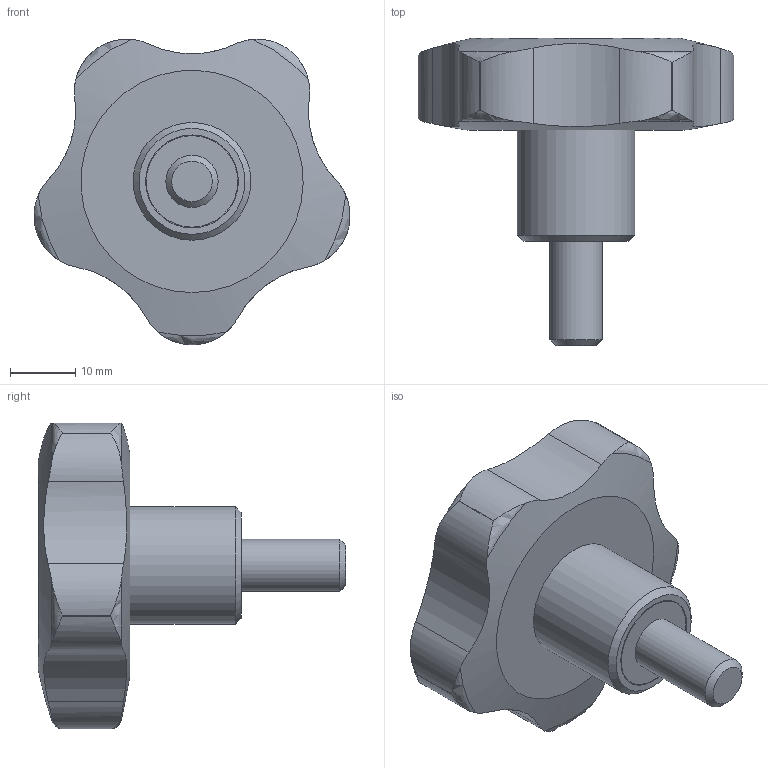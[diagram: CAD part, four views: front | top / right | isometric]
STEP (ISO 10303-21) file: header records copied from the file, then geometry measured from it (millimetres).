
FILE_DESCRIPTION( ( 'STEP AP203' ), '1' );
FILE_NAME( 'C:/Temp/Ganter_Step_05_03_2020/data/2_2/gn_5337_4/gn_5337_4_s/Star knob GN 5337.4-50-M8-16.stp', '2020-03-05T12:09:47', ( 'License CC BY-ND 4.0' ), ( 'CADENAS' ), ' ', 'PARTsolutions', ' ' );
FILE_SCHEMA( ( 'CONFIG_CONTROL_DESIGN' ) );
Length unit declared in the file: millimetre
Products named in the file (1): _Star knob GN 5337.4-50-M8-16
Bounding box: 48.33 x 47 x 46.75 mm (x, y, z)
Volume: 25339.5 mm3; surface area: 6208.3 mm2
Topology: 1 solids, 1 shells, 44 faces, 115 edges, 76 vertices
Faces by surface type: cylinder 24, torus 10, plane 5, cone 3, bspline 1, sphere 1
Full cylindrical faces by diameter (mm): 8 x1, 14 x1, 14.2 x1, 18 x1
Entity records: 1975 total; most frequent: CARTESIAN_POINT 974, ORIENTED_EDGE 204, DIRECTION 172, EDGE_CURVE 102, AXIS2_PLACEMENT_3D 76, VERTEX_POINT 74, EDGE_LOOP 56, B_SPLINE_CURVE_WITH_KNOTS 50
